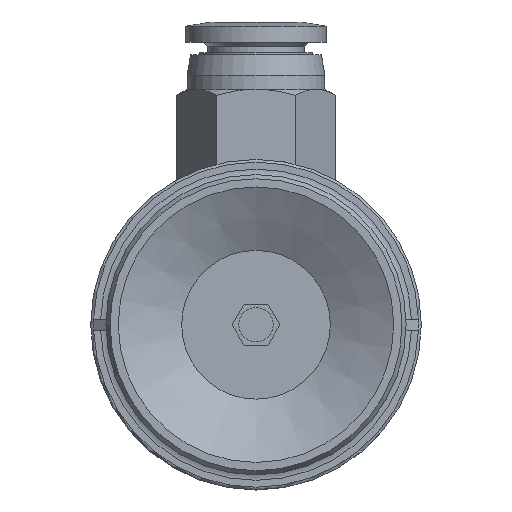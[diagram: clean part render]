
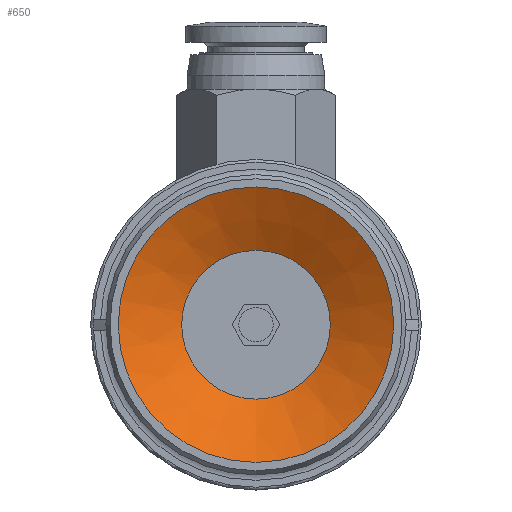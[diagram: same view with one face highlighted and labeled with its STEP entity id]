
A CAD part, front view. The second image highlights one B-rep face of the part: STEP entity #650.
In plain terms, the highlighted conical face has half-angle 61.631 degrees and reference radius 5.4 mm.
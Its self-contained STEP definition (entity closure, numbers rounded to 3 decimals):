
#650=ADVANCED_FACE('',(#1034,#1035),#1036,.F.);
#1034=FACE_BOUND('',#1499,.T.);
#1035=FACE_OUTER_BOUND('',#1500,.T.);
#1036=CONICAL_SURFACE('',#1501,5.4,1.076);
#1499=EDGE_LOOP('',(#2802));
#1500=EDGE_LOOP('',(#2803));
#1501=AXIS2_PLACEMENT_3D('',#2804,#2805,#2806);
#2802=ORIENTED_EDGE('',*,*,#3414,.F.);
#2803=ORIENTED_EDGE('',*,*,#3416,.T.);
#2804=CARTESIAN_POINT('',(0.0,2.484,0.0));
#2805=DIRECTION('',(-0.0,-1.0,0.));
#2806=DIRECTION('',(0.0,0.,-1.0));
#3414=EDGE_CURVE('',#3965,#3965,#3966,.T.);
#3416=EDGE_CURVE('',#3969,#3969,#3970,.T.);
#3965=VERTEX_POINT('',#5067);
#3966=CIRCLE('',#5068,5.4);
#3969=VERTEX_POINT('',#5071);
#3970=CIRCLE('',#5072,10.0);
#5067=CARTESIAN_POINT('',(0.0,2.484,-5.4));
#5068=AXIS2_PLACEMENT_3D('',#5959,#5960,#5961);
#5071=CARTESIAN_POINT('',(0.0,0.,-10.0));
#5072=AXIS2_PLACEMENT_3D('',#5965,#5966,#5967);
#5959=CARTESIAN_POINT('',(0.0,2.484,0.0));
#5960=DIRECTION('',(0.0,-1.0,0.));
#5961=DIRECTION('',(0.0,0.,-1.0));
#5965=CARTESIAN_POINT('',(0.0,0.0,0.0));
#5966=DIRECTION('',(0.0,-1.0,0.));
#5967=DIRECTION('',(0.0,0.,-1.0));
